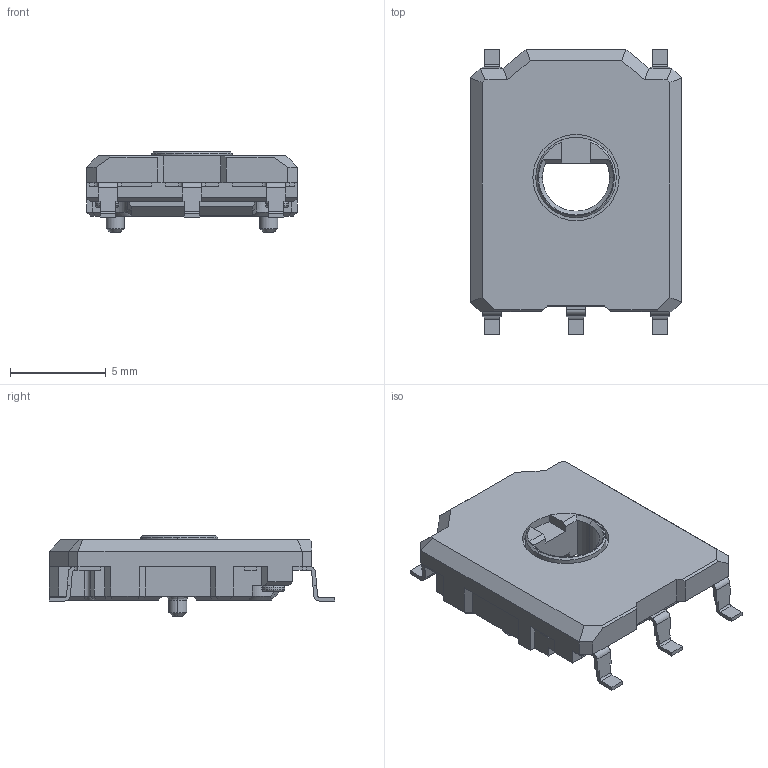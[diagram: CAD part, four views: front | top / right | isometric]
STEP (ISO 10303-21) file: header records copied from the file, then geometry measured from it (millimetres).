
FILE_DESCRIPTION (( 'STEP AP214' ), '1' );
FILE_NAME ('RDC9010007.STEP', '2025-06-04T09:49:19', ( '' ), ( '' ), 'SwSTEP 2.0', 'SolidWorks 2024', '' );
FILE_SCHEMA (( 'AUTOMOTIVE_DESIGN' ));
Length unit declared in the file: millimetre
Products named in the file (1): RDC9010007
Bounding box: 11 x 14.9 x 4.21 mm (x, y, z)
Volume: 353.5 mm3; surface area: 506.2 mm2
Topology: 1 solids, 1 shells, 342 faces, 895 edges, 562 vertices
Faces by surface type: plane 236, cylinder 61, cone 27, bspline 18
Entity records: 14506 total; most frequent: CARTESIAN_POINT 2415, ORIENTED_EDGE 1790, DIRECTION 1647, EDGE_CURVE 895, VECTOR 683, LINE 683, VERTEX_POINT 562, AXIS2_PLACEMENT_3D 482
